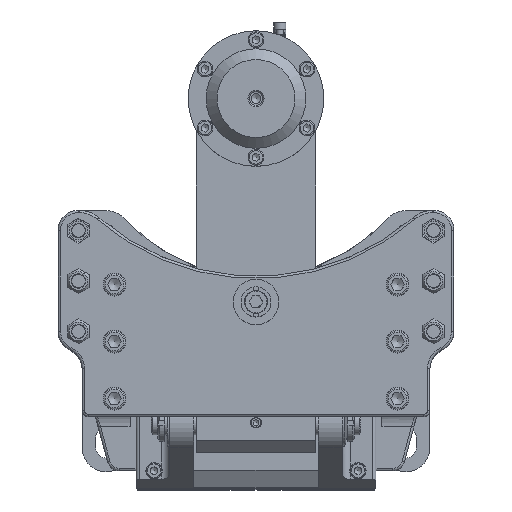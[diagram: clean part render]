
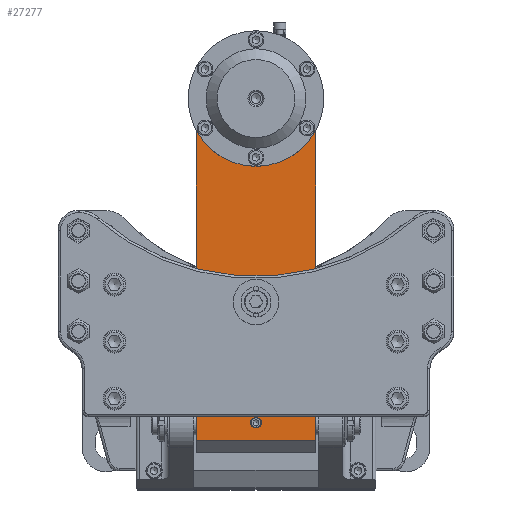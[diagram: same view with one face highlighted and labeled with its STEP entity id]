
A CAD part, top view. The second image highlights one B-rep face of the part: STEP entity #27277.
In plain terms, the highlighted planar face has unit normal (0, 0, 1).
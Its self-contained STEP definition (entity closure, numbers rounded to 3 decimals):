
#1106=FACE_BOUND('',#4528,.T.);
#1107=FACE_BOUND('',#4529,.T.);
#1629=PLANE('',#29804);
#2886=FACE_OUTER_BOUND('',#4527,.T.);
#4527=EDGE_LOOP('',(#21933,#21934,#21935,#21936,#21937,#21938,#21939,#21940,
#21941));
#4528=EDGE_LOOP('',(#21942,#21943));
#4529=EDGE_LOOP('',(#21944,#21945));
#6325=LINE('',#47550,#8209);
#6326=LINE('',#47553,#8210);
#6327=LINE('',#47555,#8211);
#6328=LINE('',#47556,#8212);
#6329=LINE('',#47558,#8213);
#6330=LINE('',#47560,#8214);
#6331=LINE('',#47561,#8215);
#8209=VECTOR('',#35889,10.);
#8210=VECTOR('',#35892,10.);
#8211=VECTOR('',#35893,10.);
#8212=VECTOR('',#35894,10.);
#8213=VECTOR('',#35895,10.);
#8214=VECTOR('',#35896,10.);
#8215=VECTOR('',#35897,10.);
#9029=CIRCLE('',#28013,47.5);
#9031=CIRCLE('',#28015,47.5);
#9135=CIRCLE('',#28214,9.9);
#9136=CIRCLE('',#28215,9.9);
#9972=CIRCLE('',#29805,4.459);
#9973=CIRCLE('',#29806,4.459);
#10597=VERTEX_POINT('',#39280);
#10598=VERTEX_POINT('',#39282);
#10599=VERTEX_POINT('',#39284);
#10766=VERTEX_POINT('',#41878);
#10767=VERTEX_POINT('',#41880);
#12135=VERTEX_POINT('',#47546);
#12136=VERTEX_POINT('',#47548);
#12137=VERTEX_POINT('',#47552);
#12138=VERTEX_POINT('',#47554);
#12139=VERTEX_POINT('',#47557);
#12140=VERTEX_POINT('',#47559);
#12141=VERTEX_POINT('',#47562);
#12142=VERTEX_POINT('',#47563);
#13281=EDGE_CURVE('',#10598,#10597,#9029,.T.);
#13283=EDGE_CURVE('',#10597,#10599,#9031,.T.);
#13530=EDGE_CURVE('',#10767,#10766,#9135,.T.);
#13531=EDGE_CURVE('',#10766,#10767,#9136,.T.);
#15585=EDGE_CURVE('',#12135,#12136,#6325,.T.);
#15586=EDGE_CURVE('',#12137,#10599,#6326,.T.);
#15587=EDGE_CURVE('',#12138,#12137,#6327,.T.);
#15588=EDGE_CURVE('',#12138,#12135,#6328,.T.);
#15589=EDGE_CURVE('',#12136,#12139,#6329,.T.);
#15590=EDGE_CURVE('',#12140,#12139,#6330,.T.);
#15591=EDGE_CURVE('',#10598,#12140,#6331,.T.);
#15592=EDGE_CURVE('',#12141,#12142,#9972,.T.);
#15593=EDGE_CURVE('',#12142,#12141,#9973,.T.);
#21933=ORIENTED_EDGE('',*,*,#13283,.T.);
#21934=ORIENTED_EDGE('',*,*,#15586,.F.);
#21935=ORIENTED_EDGE('',*,*,#15587,.F.);
#21936=ORIENTED_EDGE('',*,*,#15588,.T.);
#21937=ORIENTED_EDGE('',*,*,#15585,.T.);
#21938=ORIENTED_EDGE('',*,*,#15589,.T.);
#21939=ORIENTED_EDGE('',*,*,#15590,.F.);
#21940=ORIENTED_EDGE('',*,*,#15591,.F.);
#21941=ORIENTED_EDGE('',*,*,#13281,.T.);
#21942=ORIENTED_EDGE('',*,*,#13530,.T.);
#21943=ORIENTED_EDGE('',*,*,#13531,.T.);
#21944=ORIENTED_EDGE('',*,*,#15592,.T.);
#21945=ORIENTED_EDGE('',*,*,#15593,.T.);
#27277=ADVANCED_FACE('',(#2886,#1106,#1107),#1629,.T.);
#28013=AXIS2_PLACEMENT_3D('',#39283,#31257,#31258);
#28015=AXIS2_PLACEMENT_3D('',#39286,#31261,#31262);
#28214=AXIS2_PLACEMENT_3D('',#41881,#31768,#31769);
#28215=AXIS2_PLACEMENT_3D('',#41882,#31770,#31771);
#29804=AXIS2_PLACEMENT_3D('',#47551,#35890,#35891);
#29805=AXIS2_PLACEMENT_3D('',#47564,#35898,#35899);
#29806=AXIS2_PLACEMENT_3D('',#47565,#35900,#35901);
#31257=DIRECTION('center_axis',(0.,0.,
-1.));
#31258=DIRECTION('ref_axis',(0.,1.,0.));
#31261=DIRECTION('center_axis',(0.,0.,
-1.));
#31262=DIRECTION('ref_axis',(0.,1.,0.));
#31768=DIRECTION('center_axis',(0.,0.,
-1.));
#31769=DIRECTION('ref_axis',(0.,1.,0.));
#31770=DIRECTION('center_axis',(0.,0.,
-1.));
#31771=DIRECTION('ref_axis',(0.,1.,0.));
#35889=DIRECTION('',(1.,0.,0.));
#35890=DIRECTION('center_axis',(0.,0.,
1.));
#35891=DIRECTION('ref_axis',(1.,0.,0.));
#35892=DIRECTION('',(1.,0.,0.));
#35893=DIRECTION('',(0.707,0.707,0.));
#35894=DIRECTION('',(0.,-1.,0.));
#35895=DIRECTION('',(0.,1.,0.));
#35896=DIRECTION('',(0.707,-0.707,0.));
#35897=DIRECTION('',(1.,0.,0.));
#35898=DIRECTION('center_axis',(0.,0.,
-1.));
#35899=DIRECTION('ref_axis',(1.,0.,0.));
#35900=DIRECTION('center_axis',(0.,0.,
-1.));
#35901=DIRECTION('ref_axis',(1.,0.,0.));
#39280=CARTESIAN_POINT('',(0.,217.5,206.6));
#39282=CARTESIAN_POINT('',(15.207,310.,206.6));
#39283=CARTESIAN_POINT('Origin',(0.,265.,
206.6));
#39284=CARTESIAN_POINT('',(-15.207,310.,206.6));
#39286=CARTESIAN_POINT('Origin',(0.,265.,
206.6));
#41878=CARTESIAN_POINT('',(0.,85.6,206.6));
#41880=CARTESIAN_POINT('',(0.,105.4,206.6));
#41881=CARTESIAN_POINT('Origin',(0.,95.5,
206.6));
#41882=CARTESIAN_POINT('Origin',(0.,95.5,
206.6));
#47546=CARTESIAN_POINT('',(-50.,-20.,206.6));
#47548=CARTESIAN_POINT('',(50.,-20.,206.6));
#47550=CARTESIAN_POINT('',(0.,-20.,206.6));
#47551=CARTESIAN_POINT('Origin',(0.,310.,206.6));
#47552=CARTESIAN_POINT('',(-30.,310.,206.6));
#47553=CARTESIAN_POINT('',(0.,310.,206.6));
#47554=CARTESIAN_POINT('',(-50.,290.,206.6));
#47555=CARTESIAN_POINT('',(-27.5,312.5,206.6));
#47556=CARTESIAN_POINT('',(-50.,310.,206.6));
#47557=CARTESIAN_POINT('',(50.,290.,206.6));
#47558=CARTESIAN_POINT('',(50.,310.,206.6));
#47559=CARTESIAN_POINT('',(30.,310.,206.6));
#47560=CARTESIAN_POINT('',(27.5,312.5,206.6));
#47561=CARTESIAN_POINT('',(0.,310.,206.6));
#47562=CARTESIAN_POINT('',(4.459,-5.,206.6));
#47563=CARTESIAN_POINT('',(-4.458,-5.,206.6));
#47564=CARTESIAN_POINT('Origin',(0.,-5.,
206.6));
#47565=CARTESIAN_POINT('Origin',(0.,-5.,
206.6));
